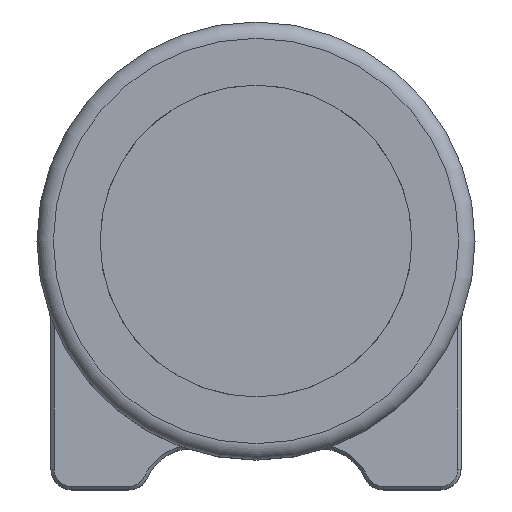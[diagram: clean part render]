
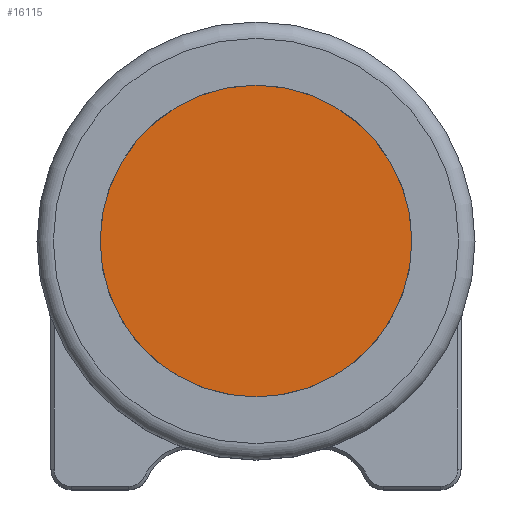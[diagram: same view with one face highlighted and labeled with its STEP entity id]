
A CAD part, top view. The second image highlights one B-rep face of the part: STEP entity #16115.
In plain terms, the highlighted planar face has unit normal (0, 0, 1).
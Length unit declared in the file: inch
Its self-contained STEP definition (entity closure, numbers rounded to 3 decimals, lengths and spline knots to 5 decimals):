
#242 = EDGE_LOOP ( 'NONE', ( #4155 ) ) ;
#1186 = AXIS2_PLACEMENT_3D ( 'NONE', #15858, #8041, #1989 ) ;
#1989 = DIRECTION ( 'NONE',  ( 1., 0., 0. ) ) ;
#2004 = VERTEX_POINT ( 'NONE', #9853 ) ;
#2619 = DIRECTION ( 'NONE',  ( 0., 0., 1. ) ) ;
#4056 = PLANE ( 'NONE',  #1186 ) ;
#4155 = ORIENTED_EDGE ( 'NONE', *, *, #4384, .T. ) ;
#4384 = EDGE_CURVE ( 'NONE', #2004, #2004, #13106, .T. ) ;
#6741 = DIRECTION ( 'NONE',  ( 1., 0., 0. ) ) ;
#8041 = DIRECTION ( 'NONE',  ( 0., 0., 1. ) ) ;
#8504 = FACE_OUTER_BOUND ( 'NONE', #242, .T. ) ;
#9853 = CARTESIAN_POINT ( 'NONE',  ( 1.14, 0., 0.09375 ) ) ;
#13106 = CIRCLE ( 'NONE', #24141, 1.14 ) ;
#15858 = CARTESIAN_POINT ( 'NONE',  ( 0., 0., 0.09375 ) ) ;
#16115 = ADVANCED_FACE ( 'NONE', ( #8504 ), #4056, .T. ) ;
#24141 = AXIS2_PLACEMENT_3D ( 'NONE', #24300, #2619, #6741 ) ;
#24300 = CARTESIAN_POINT ( 'NONE',  ( 0., 0., 0.09375 ) ) ;
